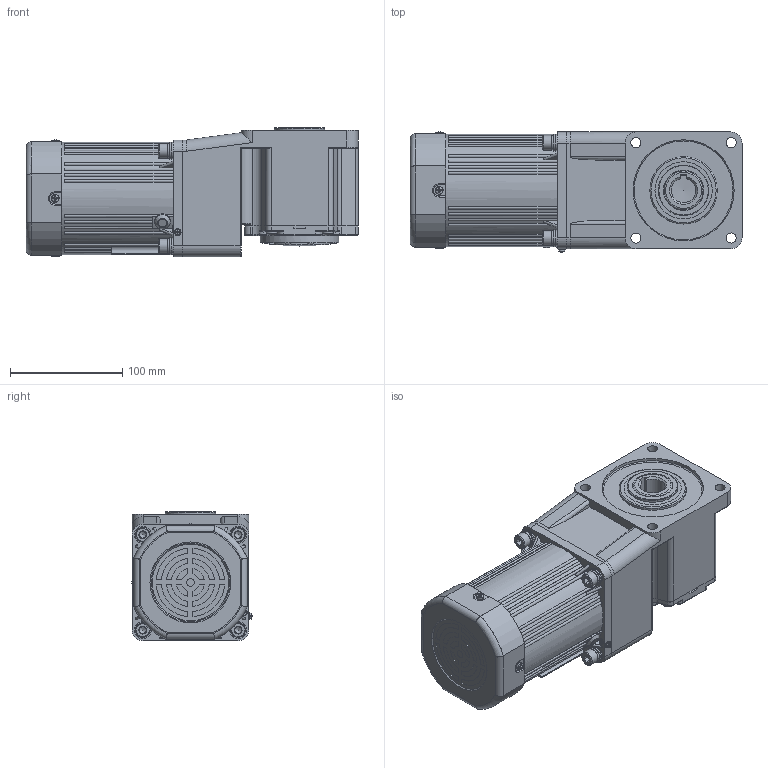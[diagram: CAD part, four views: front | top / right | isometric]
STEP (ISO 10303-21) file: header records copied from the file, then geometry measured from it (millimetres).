
FILE_DESCRIPTION(/* description */ (''),/* implementation_level */ '2;1');
FILE_NAME(/* name */ '100+直角中空-风叶-120-140W 新版.stp',/* time_stamp */ '2025-03-25T14:55:36+08:00',/* author */ (''),/* organization */ (''),/* preprocessor_version */ 'ST-DEVELOPER v18.102',/* originating_system */ 'SIEMENS PLM Software NX 2027',/* authorisation */ '');
FILE_SCHEMA (('AP203_CONFIGURATION_CONTROLLED_3D_DESIGN_OF_MECHANICAL_PARTS_AND_ASSEMBLIES_MIM_LF { 1 0 10303 403 2 1 2}'));
Products named in the file (1): 6RK120-140CC·F_6GU3-750K-C·15L_stp_objects
Bounding box: 295.5 x 106.83 x 115.53 mm (x, y, z)
Volume: 2817190.5 mm3; surface area: 386120.7 mm2
Topology: 24 solids, 24 shells, 1828 faces, 4737 edges, 3064 vertices
Faces by surface type: plane 774, cylinder 572, bspline 215, cone 123, torus 118, sphere 26
Full cylindrical faces by diameter (mm): 2.6 x2, 2.7 x1, 3 x17, 3.2 x2, 3.3 x2, 3.5 x6, 3.6 x4, 4 x4, 4.55 x2, 5.1 x2, 5.15 x2, 6 x10, 6.8 x12, 7 x2, 7.5 x2, 7.76 x4, 8.4 x4, 9 x13, 9.3 x1, 9.5 x4, 13 x4, 14 x8, 15 x5, 15.5 x2, 19 x2, 21 x1, 28 x1, 30 x3, 35 x1, 45 x2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
Entity records: 55712 total; most frequent: CARTESIAN_POINT 13719, ORIENTED_EDGE 8508, DIRECTION 8286, EDGE_CURVE 4254, AXIS2_PLACEMENT_3D 3302, VERTEX_POINT 2899, EDGE_LOOP 2320, ADVANCED_FACE 1827
